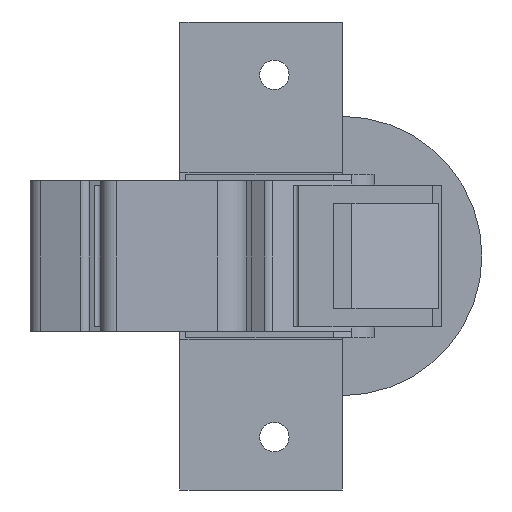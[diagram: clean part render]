
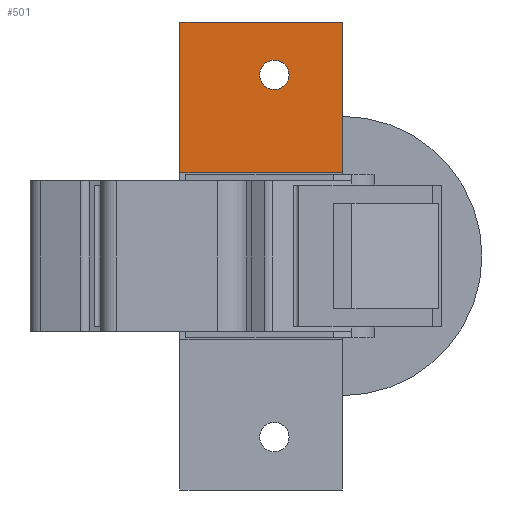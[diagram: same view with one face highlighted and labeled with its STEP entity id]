
A CAD part, front view. The second image highlights one B-rep face of the part: STEP entity #501.
In plain terms, the highlighted planar face has unit normal (0, -1, 0).
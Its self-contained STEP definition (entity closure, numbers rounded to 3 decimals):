
#1 = DIRECTION ( 'NONE',  ( -1., 0., 0. ) ) ;
#62 = VERTEX_POINT ( 'NONE', #1866 ) ;
#121 = DIRECTION ( 'NONE',  ( 0., 0., 1. ) ) ;
#238 = CARTESIAN_POINT ( 'NONE',  ( -25.484, -12.2, 24. ) ) ;
#267 = CARTESIAN_POINT ( 'NONE',  ( -25.484, -12.2, 22.05 ) ) ;
#450 = CARTESIAN_POINT ( 'NONE',  ( -37.984, -12.2, 31. ) ) ;
#501 = ADVANCED_FACE ( 'NONE', ( #2625, #2905 ), #3042, .F. ) ;
#522 = ORIENTED_EDGE ( 'NONE', *, *, #2728, .F. ) ;
#603 = DIRECTION ( 'NONE',  ( 0., 0., -1. ) ) ;
#619 = VERTEX_POINT ( 'NONE', #3513 ) ;
#815 = VECTOR ( 'NONE', #2204, 1000. ) ;
#909 = ORIENTED_EDGE ( 'NONE', *, *, #3642, .F. ) ;
#1083 = CARTESIAN_POINT ( 'NONE',  ( -37.984, -12.2, -31. ) ) ;
#1176 = CARTESIAN_POINT ( 'NONE',  ( -37.984, -12.2, 11. ) ) ;
#1378 = EDGE_LOOP ( 'NONE', ( #4439, #3037 ) ) ;
#1413 = DIRECTION ( 'NONE',  ( 0., 0., -1. ) ) ;
#1504 = CARTESIAN_POINT ( 'NONE',  ( -25.484, -12.2, 24. ) ) ;
#1543 = VERTEX_POINT ( 'NONE', #1176 ) ;
#1772 = AXIS2_PLACEMENT_3D ( 'NONE', #4520, #2320, #121 ) ;
#1781 = EDGE_CURVE ( 'NONE', #619, #1835, #1824, .T. ) ;
#1824 = CIRCLE ( 'NONE', #2154, 1.95 ) ;
#1831 = LINE ( 'NONE', #2909, #3218 ) ;
#1835 = VERTEX_POINT ( 'NONE', #267 ) ;
#1866 = CARTESIAN_POINT ( 'NONE',  ( -16.484, -12.2, 31. ) ) ;
#1894 = DIRECTION ( 'NONE',  ( 0., 0., -1. ) ) ;
#1914 = LINE ( 'NONE', #1083, #815 ) ;
#2028 = EDGE_LOOP ( 'NONE', ( #2375, #3535, #909, #522 ) ) ;
#2101 = CIRCLE ( 'NONE', #3762, 1.95 ) ;
#2154 = AXIS2_PLACEMENT_3D ( 'NONE', #238, #2800, #603 ) ;
#2204 = DIRECTION ( 'NONE',  ( 0., 0., 1. ) ) ;
#2207 = VECTOR ( 'NONE', #2287, 1000. ) ;
#2248 = CARTESIAN_POINT ( 'NONE',  ( -16.484, -12.2, 11. ) ) ;
#2249 = VERTEX_POINT ( 'NONE', #3856 ) ;
#2287 = DIRECTION ( 'NONE',  ( 1., 0., 0. ) ) ;
#2320 = DIRECTION ( 'NONE',  ( 0., 1., 0. ) ) ;
#2322 = LINE ( 'NONE', #450, #2207 ) ;
#2375 = ORIENTED_EDGE ( 'NONE', *, *, #3079, .F. ) ;
#2554 = CARTESIAN_POINT ( 'NONE',  ( -37.984, -12.2, 11. ) ) ;
#2625 = FACE_BOUND ( 'NONE', #1378, .T. ) ;
#2728 = EDGE_CURVE ( 'NONE', #2249, #62, #2322, .T. ) ;
#2800 = DIRECTION ( 'NONE',  ( 0., -1., 0. ) ) ;
#2905 = FACE_OUTER_BOUND ( 'NONE', #2028, .T. ) ;
#2909 = CARTESIAN_POINT ( 'NONE',  ( -16.484, -12.2, -31. ) ) ;
#3037 = ORIENTED_EDGE ( 'NONE', *, *, #1781, .F. ) ;
#3042 = PLANE ( 'NONE',  #1772 ) ;
#3079 = EDGE_CURVE ( 'NONE', #1543, #2249, #1914, .T. ) ;
#3172 = EDGE_CURVE ( 'NONE', #1835, #619, #2101, .T. ) ;
#3218 = VECTOR ( 'NONE', #1413, 1000. ) ;
#3437 = LINE ( 'NONE', #2554, #4567 ) ;
#3513 = CARTESIAN_POINT ( 'NONE',  ( -25.484, -12.2, 25.95 ) ) ;
#3535 = ORIENTED_EDGE ( 'NONE', *, *, #4287, .F. ) ;
#3642 = EDGE_CURVE ( 'NONE', #62, #4403, #1831, .T. ) ;
#3762 = AXIS2_PLACEMENT_3D ( 'NONE', #1504, #4108, #1894 ) ;
#3856 = CARTESIAN_POINT ( 'NONE',  ( -37.984, -12.2, 31. ) ) ;
#4108 = DIRECTION ( 'NONE',  ( 0., -1., 0. ) ) ;
#4287 = EDGE_CURVE ( 'NONE', #4403, #1543, #3437, .T. ) ;
#4403 = VERTEX_POINT ( 'NONE', #2248 ) ;
#4439 = ORIENTED_EDGE ( 'NONE', *, *, #3172, .F. ) ;
#4520 = CARTESIAN_POINT ( 'NONE',  ( -23.865, -12.2, 0. ) ) ;
#4567 = VECTOR ( 'NONE', #1, 1000. ) ;
